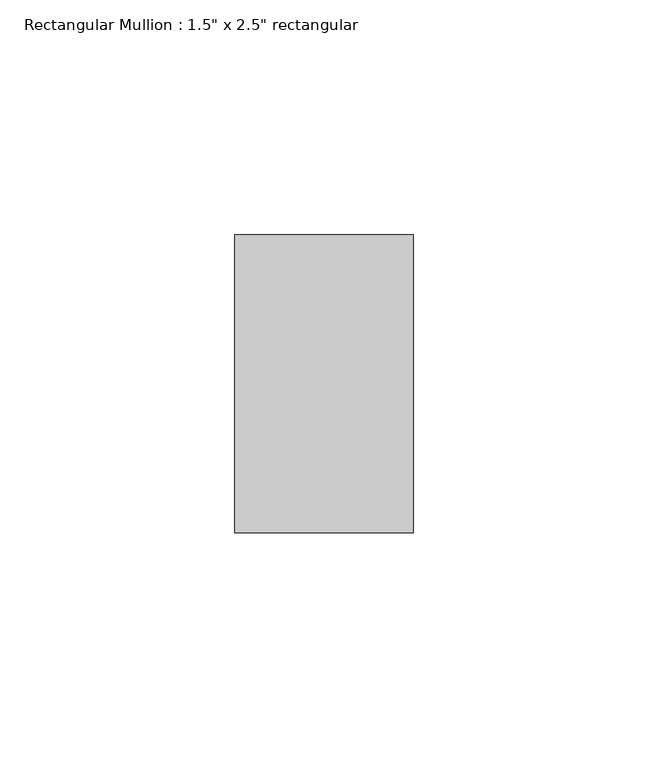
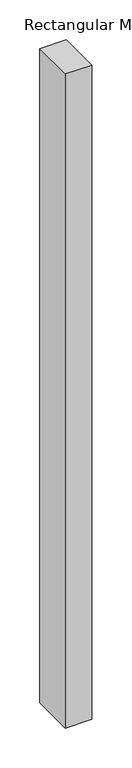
"""IFC4 building model written with IfcOpenShell, lengths in millimetres: member geometry."""

from ifc_helpers import new_model, si_unit, frame, origin, place, context, project, spatial, polyline, outline, extrude, source, transform, mapped, element, save


def member_e0b1815d(model_context):
    return source(origin(), model_context, "Body", "SweptSolid", [
        extrude(outline(polyline([(0.0, 31.75), (0.0, -31.75), (-38.1, -31.75), (-38.1, 31.75), (0.0, 31.75)])), frame((0.0, 0.0, -999.6241248), z_axis=(0.0, 0.0, 1.0), x_axis=(1.0, 0.0, 0.0)), (0.0, 0.0, 1.0), 999.6241248),
    ])


if __name__ == "__main__":
    model = new_model("IFC4")
    model_context = context("Model", 3, world=origin())
    ifc_project = project(units=[si_unit("LENGTHUNIT", "METRE", prefix="MILLI")], contexts=[model_context])
    site = spatial("IfcSite", under=ifc_project)
    building = spatial("IfcBuilding", under=site)
    placement = place(None, origin())
    member_shape = member_e0b1815d(model_context)
    element("IfcMember", 1, ObjectType="Rectangular Mullion : 1.5\" x 2.5\" rectangular", at=placement, inside=building, context=model_context, shape_type="MappedRepresentation", body=[
        mapped(member_shape, transform((0.0, 0.0, 0.0), x_axis=(1.0, 0.0, 0.0), y_axis=(0.0, 1.0, 0.0), z_axis=(0.0, 0.0, 1.0))),
    ])
    save(model, "model.ifc")
